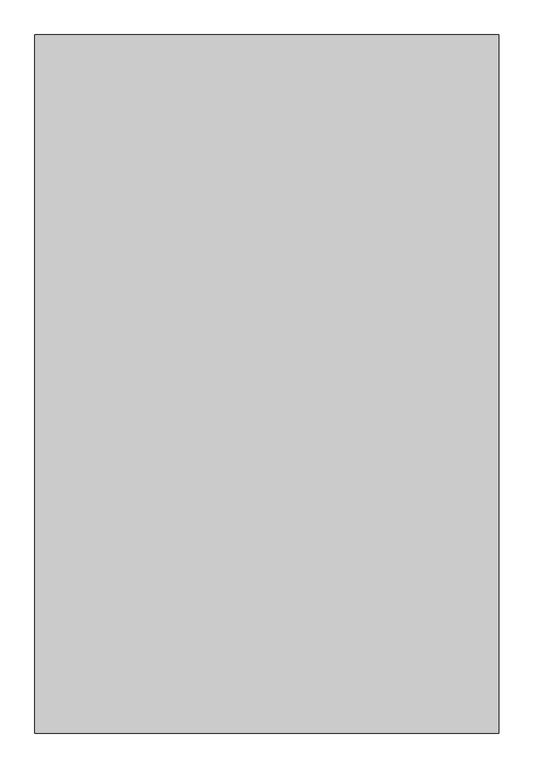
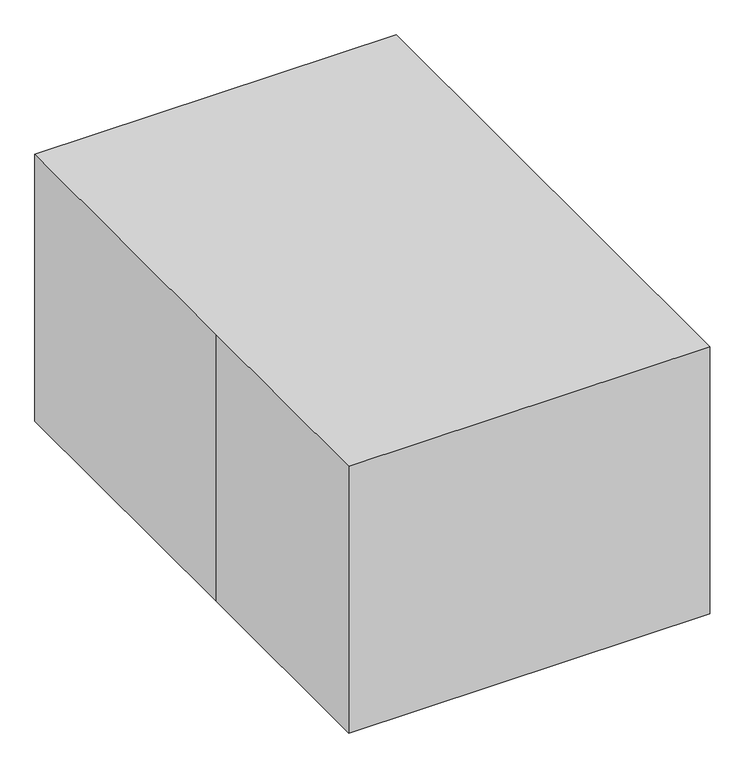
"""IFC4 building model written with IfcOpenShell, lengths in millimetres: proxy geometry, BIMHealth-MRI-LOD2A-v1 : BIMHealth-MRI-LOD2A-v1."""

import ifcopenshell
import ifcopenshell.guid

model = None  # the IFC model being written
_history = None  # IfcOwnerHistory: only IFC2X3 demands one
_inside = {}  # id of a spatial element -> (the spatial element, [elements in it])
_under = {}  # id of a project, library or spatial element -> (it, [spatial elements below it])
_declared = {}  # id of a project -> (the project, [libraries it declares])
_typed = {}  # id of a type object -> (the type object, [elements of that type])
_made_of = {}  # id of a material, layer set ... -> (it, [elements and type objects made of it])


def new_model(schema):
    """Start an empty IFC model of exactly this schema.

    Asked for "IFC4X3", IfcOpenShell would pick the latest addendum, in which some entities
    have other attributes; the version numbers below select the first issue.
    IFC2X3 requires an IfcOwnerHistory on every rooted entity: one is made here for all.
    """
    global model, _history
    if schema == "IFC4X3":
        model = ifcopenshell.file(schema_version=(4, 3, 0, 0))
    else:
        model = ifcopenshell.file(schema=schema)
    _inside.clear()
    _under.clear()
    _declared.clear()
    _typed.clear()
    _made_of.clear()
    _history = None
    if model.schema == "IFC2X3":
        org = make("IfcOrganization", Name="unknown")
        user = make(
            "IfcPersonAndOrganization",
            ThePerson=make("IfcPerson", FamilyName="unknown"),
            TheOrganization=org,
        )
        app = make(
            "IfcApplication",
            ApplicationDeveloper=org,
            Version="unknown",
            ApplicationFullName="unknown",
            ApplicationIdentifier="unknown",
        )
        _history = make(
            "IfcOwnerHistory",
            OwningUser=user,
            OwningApplication=app,
            ChangeAction="ADDED",
            CreationDate=0,
        )
    return model


def make(cls, **values):
    """One entity of the class cls with the attributes given. An attribute that is None is left unset."""
    return model.create_entity(
        cls, **{name: value for name, value in values.items() if value is not None}
    )


def rooted(cls, **values):
    """An entity with a GlobalId (a new one), such as an element, a storey or a relation."""
    return make(cls, GlobalId=ifcopenshell.guid.new(), OwnerHistory=_history, **values)


def si_unit(unit_type, name, prefix=None):
    """IfcSIUnit, for example si_unit("LENGTHUNIT", "METRE", prefix="MILLI")."""
    return make("IfcSIUnit", UnitType=unit_type, Prefix=prefix, Name=name)


def assignment(units):
    """IfcUnitAssignment: the units of a project."""
    return None if units is None else make("IfcUnitAssignment", Units=units)


def point(xyz):
    """IfcCartesianPoint."""
    return None if xyz is None else make("IfcCartesianPoint", Coordinates=xyz)


def direction(xyz):
    """IfcDirection."""
    return None if xyz is None else make("IfcDirection", DirectionRatios=xyz)


def frame(location, z_axis=None, x_axis=None):
    """IfcAxis2Placement3D, a coordinate frame: its origin and axes. An axis left out is left unset."""
    return make(
        "IfcAxis2Placement3D",
        Location=point(location),
        Axis=direction(z_axis),
        RefDirection=direction(x_axis),
    )


def frame_2d(location, x_axis=None):
    """IfcAxis2Placement2D, a coordinate frame in the plane: its origin and x axis."""
    return make(
        "IfcAxis2Placement2D", Location=point(location), RefDirection=direction(x_axis)
    )


def origin():
    """The frame at (0, 0, 0) with its axes left unset."""
    return frame((0.0, 0.0, 0.0))


def origin_with_axes():
    """The frame at (0, 0, 0) with the z axis (0, 0, 1) and the x axis (1, 0, 0) written out."""
    return frame((0.0, 0.0, 0.0), z_axis=(0.0, 0.0, 1.0), x_axis=(1.0, 0.0, 0.0))


def place(relative_to, where):
    """IfcLocalPlacement: puts the frame where relative to a parent placement (None: the world)."""
    return make(
        "IfcLocalPlacement", PlacementRelTo=relative_to, RelativePlacement=where
    )


def context(
    kind, dimensions, precision=None, world=None, true_north=None, identifier=None
):
    """IfcGeometricRepresentationContext, for example the 3D "Model" context."""
    return make(
        "IfcGeometricRepresentationContext",
        ContextIdentifier=identifier,
        ContextType=kind,
        CoordinateSpaceDimension=dimensions,
        Precision=precision,
        WorldCoordinateSystem=world,
        TrueNorth=true_north,
    )


def project(units=None, contexts=None):
    """IfcProject with its units and contexts."""
    return rooted(
        "IfcProject",
        Name="project",
        RepresentationContexts=contexts,
        UnitsInContext=assignment(units),
    )


def spatial(cls, under=None, at=None, **own):
    """A site, building, storey or space (cls), placed at a placement, below another one or the project."""
    s = rooted(cls, ObjectPlacement=at, **own)
    if under is not None:
        _under.setdefault(under.id(), (under, []))[1].append(s)
    return s


def polyline(points):
    """IfcPolyline through the points."""
    return make("IfcPolyline", Points=[point(p) for p in points])


def circle_curve(where, radius):
    """IfcCircle in the frame where."""
    return make("IfcCircle", Position=where, Radius=radius)


def ellipse_curve(where, semi_axis1, semi_axis2):
    """IfcEllipse in the frame where."""
    return make(
        "IfcEllipse", Position=where, SemiAxis1=semi_axis1, SemiAxis2=semi_axis2
    )


def trimmed(basis, trim1, trim2, sense, master):
    """IfcTrimmedCurve: the piece of a basis curve between two trims."""
    return make(
        "IfcTrimmedCurve",
        BasisCurve=basis,
        Trim1=trim1,
        Trim2=trim2,
        SenseAgreement=sense,
        MasterRepresentation=master,
    )


def segment(curve, same_sense, transition):
    """IfcCompositeCurveSegment."""
    return make(
        "IfcCompositeCurveSegment",
        Transition=transition,
        SameSense=same_sense,
        ParentCurve=curve,
    )


def composite_curve(segments, self_intersect=None):
    """IfcCompositeCurve: segments joined end to end."""
    return make("IfcCompositeCurve", Segments=segments, SelfIntersect=self_intersect)


def outline(outer, holes=None, kind="AREA"):
    """IfcArbitraryClosedProfileDef: a profile drawn as a closed curve; with holes, ...WithVoids."""
    if holes is None:
        return make("IfcArbitraryClosedProfileDef", ProfileType=kind, OuterCurve=outer)
    return make(
        "IfcArbitraryProfileDefWithVoids",
        ProfileType=kind,
        OuterCurve=outer,
        InnerCurves=holes,
    )


def extrude(swept, where, along, depth):
    """IfcExtrudedAreaSolid: the profile swept, set in the frame where, extruded along a direction by depth."""
    return make(
        "IfcExtrudedAreaSolid",
        SweptArea=swept,
        Position=where,
        ExtrudedDirection=direction(along),
        Depth=depth,
    )


def shape(context_of_items, identifier, shape_type, items):
    """IfcShapeRepresentation: the items that make up one representation, for example the "Body"."""
    return make(
        "IfcShapeRepresentation",
        ContextOfItems=context_of_items,
        RepresentationIdentifier=identifier,
        RepresentationType=shape_type,
        Items=items,
    )


def source(mapping_origin, context_of_items, identifier, shape_type, items):
    """IfcRepresentationMap: a shape defined once, which mapped items show again and again."""
    return make(
        "IfcRepresentationMap",
        MappingOrigin=mapping_origin,
        MappedRepresentation=shape(context_of_items, identifier, shape_type, items),
    )


def transform(
    local_origin,
    x_axis=None,
    y_axis=None,
    z_axis=None,
    scale=None,
    scale2=None,
    scale3=None,
    uniform=True,
):
    """IfcCartesianTransformationOperator3D, or its non-uniform kind. x_axis, y_axis, z_axis: its Axis1, 2, 3."""
    if uniform:
        return make(
            "IfcCartesianTransformationOperator3D",
            Axis1=direction(x_axis),
            Axis2=direction(y_axis),
            LocalOrigin=point(local_origin),
            Scale=scale,
            Axis3=direction(z_axis),
        )
    return make(
        "IfcCartesianTransformationOperator3DnonUniform",
        Axis1=direction(x_axis),
        Axis2=direction(y_axis),
        LocalOrigin=point(local_origin),
        Scale=scale,
        Axis3=direction(z_axis),
        Scale2=scale2,
        Scale3=scale3,
    )


def mapped(mapping_source, mapping_target):
    """IfcMappedItem: shows the shape of a source again, moved by a transform."""
    return make(
        "IfcMappedItem", MappingSource=mapping_source, MappingTarget=mapping_target
    )


def made_of(thing, what):
    """Note that an element or type object is made of a material, layer set ...; save() writes the relation."""
    if what is not None:
        _made_of.setdefault(what.id(), (what, []))[1].append(thing)
    return thing


def element(
    cls,
    number,
    at=None,
    inside=None,
    cuts=None,
    type_object=None,
    material=None,
    context=None,
    identifier="Body",
    shape_type=None,
    held_by="IfcProductDefinitionShape",
    body=None,
    shapes=None,
    **own,
):
    """One element of the class cls, such as IfcWall. Its Tag is "e" and its number.

    at: its placement. inside: the storey or other place that contains it. cuts: it is an
    opening in that element (IfcRelVoidsElement). A single representation is given by context,
    identifier, shape_type and body (its items); several are given by shapes. held_by: the class
    of the entity that holds the representations. save() writes the other relations.
    """
    e = rooted(cls, Tag="e%d" % number, ObjectPlacement=at, **own)
    if body is not None:
        shapes = [shape(context, identifier, shape_type, body)]
    if shapes is not None:
        e.Representation = make(held_by, Representations=shapes)
    if inside is not None:
        _inside.setdefault(inside.id(), (inside, []))[1].append(e)
    if cuts is not None:
        rooted(
            "IfcRelVoidsElement", RelatingBuildingElement=cuts, RelatedOpeningElement=e
        )
    if type_object is not None:
        _typed.setdefault(type_object.id(), (type_object, []))[1].append(e)
    return made_of(e, material)


def aggregate(whole, parts):
    """IfcRelAggregates: a whole, such as a stair, and the parts it consists of."""
    return rooted("IfcRelAggregates", RelatingObject=whole, RelatedObjects=parts)


def save(model, path):
    """Write the relations noted so far, then the file.

    IfcRelAggregates (storeys below a building ...), IfcRelContainedInSpatialStructure (elements
    in a storey), IfcRelDefinesByType, IfcRelAssociatesMaterial and IfcRelDeclares: one each for
    every whole, place, type object, material and project.
    """
    for whole, parts in _under.values():
        aggregate(whole, parts)
    for where, things in _inside.values():
        rooted(
            "IfcRelContainedInSpatialStructure",
            RelatedElements=things,
            RelatingStructure=where,
        )
    for kind, things in _typed.values():
        rooted("IfcRelDefinesByType", RelatedObjects=things, RelatingType=kind)
    for what, things in _made_of.values():
        rooted("IfcRelAssociatesMaterial", RelatedObjects=things, RelatingMaterial=what)
    for by, libraries in _declared.values():
        rooted("IfcRelDeclares", RelatingContext=by, RelatedDefinitions=libraries)
    model.write(path)


def plane_surface(at):
    """IfcPlane: the flat surface through the origin of the frame at, square to its z axis."""
    return make("IfcPlane", Position=at)


def cylinder_surface(at, radius):
    """IfcCylindricalSurface: all points at the distance radius from the z axis of the frame at."""
    return make("IfcCylindricalSurface", Position=at, Radius=radius)


def revolved_surface(curve, axis_point, axis_direction):
    """IfcSurfaceOfRevolution: the curve turned about the line through axis_point along axis_direction."""
    return make(
        "IfcSurfaceOfRevolution",
        SweptCurve=make("IfcArbitraryOpenProfileDef", ProfileType="CURVE", Curve=curve),
        AxisPosition=make("IfcAxis1Placement", Location=point(axis_point), Axis=direction(axis_direction)),
    )


def advanced_brep(points, edges, surfaces, faces):
    """IfcAdvancedBrep: a solid bounded by faces that lie on surfaces and meet in shared edges.

    An edge is (start, end): straight between two places in points (the first is 0);
    or (start, end, curve); or (start, end, curve, False) where it runs against its curve.
    A face is (place in surfaces, loops), or (place, loops, False) where it looks against
    its surface's normal. A loop lists edges by number (the first is 1), with a minus sign
    where the edge is run from its end to its start. The first loop is the outer one.
    """
    corners = [point(p) for p in points]
    vertices = [make("IfcVertexPoint", VertexGeometry=c) for c in corners]
    made = []
    for start, end, *more in edges:
        made.append(
            make(
                "IfcEdgeCurve",
                EdgeStart=vertices[start],
                EdgeEnd=vertices[end],
                EdgeGeometry=more[0] if more else make("IfcPolyline", Points=[corners[start], corners[end]]),
                SameSense=more[1] if len(more) > 1 else True,
            )
        )
    hull = []
    for where, loops, *sense in faces:
        bounds = []
        for j, loop in enumerate(loops):
            ring = [make("IfcOrientedEdge", EdgeElement=made[abs(k) - 1], Orientation=k > 0) for k in loop]
            bounds.append(
                make(
                    "IfcFaceOuterBound" if j == 0 else "IfcFaceBound",
                    Bound=make("IfcEdgeLoop", EdgeList=ring),
                    Orientation=True,
                )
            )
        hull.append(make("IfcAdvancedFace", Bounds=bounds, FaceSurface=surfaces[where], SameSense=sense[0] if sense else True))
    return make("IfcAdvancedBrep", Outer=make("IfcClosedShell", CfsFaces=hull))


def generic_models_8b75f9c6(model_context):
    return source(origin(), model_context, "Body", "SolidModel", [
        extrude(outline(polyline([(817.5894364, -1006.9230769), (817.5894364, -988.28125), (818.4367922, -980.390625), (820.9367922, -975.0360577), (825.6483306, -971.4483173), (832.2649172, -970.0), (839.9211672, -972.1213942), (844.5125133, -978.1850962), (848.8694845, -973.1911058), (854.6206864, -971.5384615), (860.9187633, -973.5036058), (865.3718883, -978.9362981), (866.8202056, -988.1370192), (866.8202056, -1006.9230769), (817.5894364, -1006.9230769)]), holes=[polyline([(846.8202056, -1000.7692308), (860.6663595, -1000.7692308), (860.6663595, -990.3846154), (860.0233306, -982.4759615), (857.6495326, -978.9302885), (853.6351095, -977.6923077), (849.626696, -979.0204327), (847.3490518, -982.96875), (846.8202056, -989.53125), (846.8202056, -1000.7692308)]), polyline([(823.7432826, -1000.7692308), (840.6663595, -1000.7692308), (840.6663595, -988.75), (839.8430422, -981.1478365), (836.9884749, -977.3317308), (832.204821, -976.1538462), (828.0581864, -977.1574519), (825.3238114, -979.7175481), (823.9836672, -983.5817308), (823.7432826, -988.1490385), (823.7432826, -1000.7692308)])]), frame((0.0, -1540.0, 0.0), z_axis=(0.0, 1.0, 0.0), x_axis=(0.0, 0.0, 1.0)), (0.0, 0.0, 1.0), 25.0),
        extrude(outline(polyline([(817.5894364, -961.5384615), (817.5894364, -955.3846154), (860.6663595, -955.3846154), (817.5894364, -943.0048077), (817.5894364, -934.6754808), (860.6663595, -922.3076923), (817.5894364, -922.3076923), (817.5894364, -916.1538462), (866.8202056, -916.1538462), (866.8202056, -926.7427885), (832.721648, -936.6466346), (824.8730903, -938.8461538), (832.1206864, -940.8894231), (866.8202056, -950.9855769), (866.8202056, -961.5384615), (817.5894364, -961.5384615)])), frame((0.0, -1540.0, 0.0), z_axis=(0.0, 1.0, 0.0), x_axis=(0.0, 0.0, 1.0)), (0.0, 0.0, 1.0), 25.0),
        extrude(outline(polyline([(-898.4615385, -1540.0), (-904.6153846, -1540.0), (-904.6153846, -1515.0), (-898.4615385, -1515.0), (-898.4615385, -1540.0)])), frame((0.0, 0.0, 817.5894364), z_axis=(0.0, 0.0, 1.0), x_axis=(1.0, 0.0, 0.0)), (0.0, 0.0, 1.0), 49.2307692),
        extrude(outline(polyline([(817.5894364, -866.9230769), (817.5894364, -860.7692308), (840.6663595, -860.7692308), (840.6663595, -834.6153846), (817.5894364, -834.6153846), (817.5894364, -828.4615385), (866.8202056, -828.4615385), (866.8202056, -834.6153846), (846.8202056, -834.6153846), (846.8202056, -860.7692308), (866.8202056, -860.7692308), (866.8202056, -866.9230769), (817.5894364, -866.9230769)])), frame((0.0, -1540.0, 0.0), z_axis=(0.0, 1.0, 0.0), x_axis=(0.0, 0.0, 1.0)), (0.0, 0.0, 1.0), 25.0),
        extrude(outline(polyline([(828.3586672, -793.1490385), (824.2601095, -797.1153846), (822.9740518, -803.1490385), (825.7504941, -811.0757212), (833.7432826, -814.6153846), (833.7432826, -786.9591346), (835.4019364, -786.9230769), (849.5004941, -791.5925481), (854.5125133, -803.6177885), (849.4884749, -815.9975962), (835.3658787, -820.7692308), (821.6940037, -816.0456731), (816.8202056, -803.2692308), (819.6447249, -792.7584135), (827.5894364, -787.1153846), (828.3586672, -793.1490385)]), holes=[polyline([(839.8971287, -814.6153846), (846.0569845, -811.2199519), (848.3586672, -803.6418269), (845.4740518, -795.5408654), (839.8971287, -793.0769231), (839.8971287, -814.6153846)])]), frame((0.0, -1540.0, 0.0), z_axis=(0.0, 1.0, 0.0), x_axis=(0.0, 0.0, 1.0)), (0.0, 0.0, 1.0), 25.0),
        extrude(outline(polyline([(822.204821, -757.6923077), (817.5894364, -756.1538462), (817.5894364, -750.0), (822.7637153, -751.2259615), (833.454821, -751.5384615), (841.111071, -751.5384615), (846.4956864, -751.8389423), (850.6723691, -753.7259615), (853.4187633, -757.9387019), (854.5125133, -765.3966346), (853.2745326, -773.515625), (849.752898, -778.8762019), (843.7432826, -781.5384615), (842.9740518, -775.3846154), (847.174773, -772.4158654), (848.3586672, -766.1899038), (846.579821, -759.3870192), (840.6663595, -757.7283654), (838.5509749, -768.4014423), (837.6254941, -773.7259615), (835.6062633, -778.0348558), (832.0726095, -781.1298077), (827.204821, -782.3076923), (819.7408787, -779.1887019), (816.8202056, -770.2524038), (818.034148, -763.6598558), (822.204821, -757.6923077)]), holes=[polyline([(834.5125133, -757.6923077), (832.7697249, -757.7283654), (828.0101095, -758.7019231), (824.4464076, -762.7163462), (822.9740518, -768.9423077), (824.3081864, -774.3209135), (827.6375133, -776.1538462), (830.0053018, -775.3125), (831.627898, -772.9146635), (832.6254941, -767.6201923), (834.5125133, -757.6923077)])]), frame((0.0, -1540.0, 0.0), z_axis=(0.0, 1.0, 0.0), x_axis=(0.0, 0.0, 1.0)), (0.0, 0.0, 1.0), 25.0),
        extrude(outline(polyline([(-736.9230769, -1540.0), (-743.0769231, -1540.0), (-743.0769231, -1515.0), (-736.9230769, -1515.0), (-736.9230769, -1540.0)])), frame((0.0, 0.0, 817.5894364), z_axis=(0.0, 0.0, 1.0), x_axis=(1.0, 0.0, 0.0)), (0.0, 0.0, 1.0), 49.2307692),
        extrude(outline(polyline([(822.721648, -714.6153846), (822.9740518, -717.2956731), (824.5125133, -720.4447115), (827.6855903, -720.7692308), (847.5894364, -720.7692308), (847.5894364, -714.6153846), (853.7432826, -714.6153846), (853.7432826, -720.7692308), (866.1471287, -720.7692308), (862.5293403, -726.9230769), (853.7432826, -726.9230769), (853.7432826, -731.5384615), (847.5894364, -731.5384615), (847.5894364, -726.9230769), (827.5053018, -726.9230769), (820.5221287, -726.1778846), (817.8418403, -723.6057692), (816.8202056, -718.4495192), (817.409148, -713.8461538), (822.721648, -714.6153846)])), frame((0.0, -1540.0, 0.0), z_axis=(0.0, 1.0, 0.0), x_axis=(0.0, 0.0, 1.0)), (0.0, 0.0, 1.0), 25.0),
        extrude(outline(polyline([(817.5894364, -708.4615385), (817.5894364, -702.3076923), (836.7961672, -702.3076923), (843.2745326, -701.3040865), (846.9884749, -697.9387019), (848.3586672, -692.8966346), (846.3274172, -687.34375), (839.8370326, -685.3846154), (817.5894364, -685.3846154), (817.5894364, -679.2307692), (840.4740518, -679.2307692), (848.5629941, -680.4927885), (852.9319845, -684.6875), (854.5125133, -691.5985577), (848.7192441, -702.3076923), (866.8202056, -702.3076923), (866.8202056, -708.4615385), (817.5894364, -708.4615385)])), frame((0.0, -1540.0, 0.0), z_axis=(0.0, 1.0, 0.0), x_axis=(0.0, 0.0, 1.0)), (0.0, 0.0, 1.0), 25.0),
        extrude(outline(polyline([(1953.2196027, -113.8461538), (1953.2196027, -101.5384615), (2039.3734488, -101.5384615), (1953.2196027, -76.7788462), (1953.2196027, -60.1201923), (2039.3734488, -35.3846154), (1953.2196027, -35.3846154), (1953.2196027, -23.0769231), (2051.6811411, -23.0769231), (2051.6811411, -44.2548077), (1983.4840257, -64.0625), (1967.7869103, -68.4615385), (1982.2821027, -72.5480769), (2051.6811411, -92.7403846), (2051.6811411, -113.8461538), (1953.2196027, -113.8461538)])), frame((0.0, -1135.0, 0.0), z_axis=(0.0, 1.0, 0.0), x_axis=(0.0, 0.0, 1.0)), (0.0, 0.0, 1.0), 25.0),
        extrude(outline(polyline([(1953.2196027, -1.5384615), (1953.2196027, 10.7692308), (1996.2965257, 10.7692308), (1996.2965257, 25.625), (1995.8638334, 32.7644231), (1993.5200834, 38.6177885), (1987.1378719, 45.1201923), (1973.6282565, 54.375), (1953.2196027, 67.1875), (1953.2196027, 81.4903846), (1979.902295, 65.0721154), (1992.5705642, 55.0961538), (1997.8349873, 48.1009615), (2001.0982084, 60.2253606), (2006.9936411, 68.7139423), (2015.0345065, 73.7169471), (2024.7340257, 75.3846154), (2039.6258527, 71.3581731), (2049.0248911, 60.5889423), (2051.6811411, 40.8894231), (2051.6811411, -1.5384615), (1953.2196027, -1.5384615)]), holes=[polyline([(2008.604218, 10.7692308), (2039.3734488, 10.7692308), (2039.3734488, 41.4182692), (2035.1186411, 57.8725962), (2024.277295, 63.0769231), (2015.9239296, 60.3485577), (2010.3470065, 52.3677885), (2008.604218, 38.3173077), (2008.604218, 10.7692308)])]), frame((0.0, -1135.0, 0.0), z_axis=(0.0, 1.0, 0.0), x_axis=(0.0, 0.0, 1.0)), (0.0, 0.0, 1.0), 25.0),
        extrude(outline(polyline([(110.7692308, -1135.0), (98.4615385, -1135.0), (98.4615385, -1110.0), (110.7692308, -1110.0), (110.7692308, -1135.0)])), frame((0.0, 0.0, 1953.2196027), z_axis=(0.0, 0.0, 1.0), x_axis=(1.0, 0.0, 0.0)), (0.0, 0.0, 1.0), 98.4615385),
        extrude(outline(composite_curve([segment(polyline([(831.8455339, 683.5323838), (931.8455339, 683.5323838), (1057.0831069, 373.0851318)]), True, "CONTINUOUS"), segment(trimmed(circle_curve(frame_2d((1209.4316858, 1.2402151)), 401.8441632), [point((1057.0831069, 373.0851318))], [point((1057.0831069, -370.6047015))], True, "CARTESIAN"), True, "CONTINUOUS"), segment(polyline([(1057.0831069, -370.6047015), (930.0, -683.5323838), (831.8455339, -683.5323838)]), True, "CONTINUOUS"), segment(trimmed(circle_curve(frame_2d((1207.5894364, 0.0)), 780.0), [point((831.8455339, -683.5323838))], [point((831.8455339, 683.5323838))], False, "CARTESIAN"), True, "CONTINUOUS")], self_intersect=False)), frame((0.0, -1135.0, 0.0), z_axis=(0.0, 1.0, 0.0), x_axis=(0.0, 0.0, 1.0)), (0.0, 0.0, 1.0), 520.0),
        extrude(outline(polyline([(711.6025404, -400.0), (625.0, -350.0), (625.0, -300.0), (580.9908232, -300.0), (580.9908232, -250.0), (530.9908232, -250.0), (530.9908232, -150.0), (580.9908232, -150.0), (580.9908232, 150.0), (530.9908232, 150.0), (530.9908232, 250.0), (580.9908232, 250.0), (580.9908232, 300.0), (630.9908232, 300.0), (630.9908232, 350.0), (711.6025404, 400.0), (711.6025404, 300.0), (697.4604048, 285.8578644), (697.4604048, -285.8578644), (711.6025404, -300.0), (711.6025404, -400.0)])), frame((0.0, -3265.0, 0.0), z_axis=(0.0, 1.0, 0.0), x_axis=(0.0, 0.0, 1.0)), (0.0, 0.0, 1.0), 2130.0),
        extrude(outline(polyline([(415.0, 350.0), (505.9908232, 350.0), (505.9908232, 400.0), (630.9908232, 400.0), (630.9908232, 300.0), (580.9908232, 300.0), (580.9908232, 250.0), (530.9908232, 250.0), (530.9908232, 150.0), (580.9908232, 150.0), (580.9908232, -150.0), (530.9908232, -150.0), (530.9908232, -250.0), (580.9908232, -250.0), (580.9908232, -300.0), (625.0, -300.0), (625.0, -400.0), (505.9908232, -400.0), (505.9908232, -350.0), (415.0, -350.0), (415.0, 0.0), (415.0, 350.0)])), frame((0.0, -2665.0, 0.0), z_axis=(0.0, 1.0, 0.0), x_axis=(0.0, 0.0, 1.0)), (0.0, 0.0, 1.0), 1250.0),
        extrude(outline(polyline([(400.0, -1065.0), (400.0, -1415.0), (-620.0, -1415.0), (-620.0, -1065.0), (400.0, -1065.0)])), frame((0.0, 0.0, 375.0), z_axis=(0.0, 0.0, 1.0), x_axis=(1.0, 0.0, 0.0)), (0.0, 0.0, 1.0), 250.0),
        extrude(outline(composite_curve([segment(polyline([(-1220.027776, -1515.0), (-1220.027776, -1065.0), (-1070.0, -1065.0)]), True, "CONTINUOUS"), segment(trimmed(circle_curve(frame_2d((-746.1562394, -464.5758248)), 682.1905683), [point((-1070.0, -1065.0))], [point((-620.0, -1135.0))], True, "CARTESIAN"), True, "CONTINUOUS"), segment(polyline([(-620.0, -1135.0), (-620.0, -1515.0), (-1220.027776, -1515.0)]), True, "CONTINUOUS")], self_intersect=False)), frame((0.0, 0.0, 935.0), z_axis=(0.0, 0.0, 1.0), x_axis=(1.0, 0.0, 0.0)), (0.0, 0.0, 1.0), 25.0),
        extrude(outline(composite_curve([segment(polyline([(2760.0, -1070.0), (1860.0, -1070.0)]), True, "CONTINUOUS"), segment(trimmed(circle_curve(frame_2d((364.4024253, 30.3542375)), 1856.7691169), [point((1860.0, -1070.0))], [point((2210.0, -173.0201606))], True, "CARTESIAN"), True, "CONTINUOUS"), segment(trimmed(circle_curve(frame_2d((2172.4729829, -1993.9388705)), 1821.3053629), [point((2210.0, -173.0201606))], [point((2760.0, -270.0))], False, "CARTESIAN"), True, "CONTINUOUS"), segment(polyline([(2760.0, -270.0), (2760.0, -1070.0)]), True, "CONTINUOUS")], self_intersect=False)), frame((0.0, -804.7531449, 0.0), z_axis=(0.0, 1.0, 0.0), x_axis=(0.0, 0.0, 1.0)), (0.0, 0.0, 1.0), 1757.427349),
        extrude(outline(composite_curve([segment(trimmed(circle_curve(frame_2d((421.5047771, 0.0)), 1792.810226), [point((1860.0, -1070.0))], [point((2113.0949325, -593.8781462))], True, "CARTESIAN"), True, "CONTINUOUS"), segment(trimmed(circle_curve(frame_2d((1208.0316483, 0.0)), 1082.5113398), [point((2113.0949325, -593.8781462))], [point((2113.0949325, 593.8781462))], True, "CARTESIAN"), True, "CONTINUOUS"), segment(trimmed(circle_curve(frame_2d((421.5047771, 0.0)), 1792.810226), [point((2113.0949325, 593.8781462))], [point((1860.0, 1070.0))], True, "CARTESIAN"), True, "CONTINUOUS"), segment(trimmed(circle_curve(frame_2d((1438.5738499, 0.0)), 1150.0), [point((1860.0, 1070.0))], [point((1860.0, -1070.0))], False, "CARTESIAN"), True, "CONTINUOUS")], self_intersect=False)), frame((0.0, -856.8008398, 0.0), z_axis=(0.0, 1.0, 0.0), x_axis=(0.0, 0.0, 1.0)), (0.0, 0.0, 1.0), 1925.0),
        extrude(outline(composite_curve([segment(trimmed(circle_curve(frame_2d((421.5047771, 0.0)), 1792.810226), [point((2113.0949325, -593.8781462))], [point((2113.0949325, 593.8781462))], True, "CARTESIAN"), True, "CONTINUOUS"), segment(trimmed(circle_curve(frame_2d((1208.0316483, 0.0)), 1082.5113398), [point((2113.0949325, 593.8781462))], [point((2113.0949325, -593.8781462))], False, "CARTESIAN"), True, "CONTINUOUS")], self_intersect=False)), frame((0.0, -1065.0, 0.0), z_axis=(0.0, 1.0, 0.0), x_axis=(0.0, 0.0, 1.0)), (0.0, 0.0, 1.0), 2130.0),
        advanced_brep(
        [(-532.5113398, -1065.0, 1208.0316483), (532.5113398, -1065.0, 1208.0316483), (1082.5113398, -1065.0, 1208.0316483), (-1082.5113398, -1065.0, 1208.0316483)],
        [
            (0, 1, circle_curve(frame((0.0, -1065.0, 1208.0316483), z_axis=(0.0, 1.0, 0.0), x_axis=(1.0, 0.0, 0.0)), 532.5113398)),
            (1, 2, circle_curve(frame((807.5113398, -476.0390505, 1208.0316483), z_axis=(0.0, 0.0, 1.0), x_axis=(-1.0, 0.0, 0.0)), 650.0)),
            (2, 3, circle_curve(frame((0.0, -1065.0, 1208.0316483), z_axis=(0.0, -1.0, 0.0), x_axis=(1.0, 0.0, 0.0)), 1082.5113398)),
            (3, 0, circle_curve(frame((-807.5113398, -476.0390505, 1208.0316483), z_axis=(0.0, 0.0, 1.0), x_axis=(1.0, 0.0, 0.0)), 650.0)),
            (2, 3, circle_curve(frame((0.0, -1065.0, 1208.0316483), z_axis=(0.0, 1.0, 0.0), x_axis=(-1.0, 0.0, 0.0)), 1082.5113398)),
            (0, 1, circle_curve(frame((0.0, -1065.0, 1208.0316483), z_axis=(0.0, -1.0, 0.0), x_axis=(-1.0, 0.0, 0.0)), 532.5113398)),
        ],
        [
            revolved_surface(trimmed(ellipse_curve(frame((807.5113398, -476.0390505, 1208.0316483), z_axis=(0.0, 0.0, -1.0), x_axis=(-1.0, 0.0, 0.0)), 650.0, 650.0), [point((1082.5113398, -1065.0, 1208.0316483))], [point((532.5113398, -1065.0, 1208.0316483))], True, "CARTESIAN"), (0.0, -1065.0, 1208.0316483), (0.0, -1.0, 0.0)),
            plane_surface(frame((0.0, -1065.0, 1208.0316483), z_axis=(0.0, 1.0, 0.0), x_axis=(-1.0, 0.0, 0.0))),
            revolved_surface(trimmed(ellipse_curve(frame((-807.5113398, -476.0390505, 1208.0316483), z_axis=(0.0, 0.0, 1.0), x_axis=(1.0, 0.0, 0.0)), 650.0, 650.0), [point((-1082.5113398, -1065.0, 1208.0316483))], [point((-532.5113398, -1065.0, 1208.0316483))], True, "CARTESIAN"), (0.0, -1065.0, 1208.0316483), (0.0, -1.0, 0.0)),
        ],
        [
            (0, [[1, 2, 3, 4]]),
            (1, [[5, -3], [6, -1]]),
            (2, [[-6, -4, -5, -2]]),
        ],
    ),
        extrude(outline(composite_curve([segment(polyline([(0.0, -620.0), (930.0, -620.0), (930.0, -1220.027776)]), True, "CONTINUOUS"), segment(trimmed(circle_curve(frame_2d((930.0, 1737.4523567)), 2957.4801327), [point((930.0, -1220.027776))], [point((0.0, -1070.0))], False, "CARTESIAN"), True, "CONTINUOUS"), segment(polyline([(0.0, -1070.0), (0.0, -620.0)]), True, "CONTINUOUS")], self_intersect=False)), frame((0.0, -1515.0, 0.0), z_axis=(0.0, 1.0, 0.0), x_axis=(0.0, 0.0, 1.0)), (0.0, 0.0, 1.0), 450.0),
        advanced_brep(
        [(1070.0, -1065.0, 0.0), (1070.0, -1065.0, 1860.0), (-1070.0, -1065.0, 1860.0), (-1070.0, -1065.0, 0.0), (780.0, -1065.0, 1207.5894364), (-780.0, -1065.0, 1207.5894364), (1070.0, 1065.0, 0.0), (-1070.0, 1065.0, 0.0), (-1070.0, 1065.0, 1860.0), (1070.0, 1065.0, 1860.0), (400.0, -615.0, 1207.5894364), (-400.0, -615.0, 1207.5894364), (400.0, 785.9468407, 1207.5894364), (-400.0, 785.9468407, 1207.5894364)],
        [
            (0, 1, circle_curve(frame((-1704.9224394, -1065.0, 930.0), z_axis=(0.0, -1.0, 0.0), x_axis=(1.0, 0.0, 0.0)), 2926.6182779)),
            (1, 2, circle_curve(frame((0.0, -1065.0, 421.5047771), z_axis=(0.0, -1.0, 0.0), x_axis=(1.0, 0.0, 0.0)), 1792.810226)),
            (2, 3, circle_curve(frame((1737.4523567, -1065.0, 930.0), z_axis=(0.0, -1.0, 0.0), x_axis=(1.0, 0.0, 0.0)), 2957.4801327)),
            (3, 0),
            (4, 5, circle_curve(frame((0.0, -1065.0, 1207.5894364), z_axis=(0.0, 1.0, 0.0), x_axis=(1.0, 0.0, 0.0)), 780.0)),
            (5, 4, circle_curve(frame((0.0, -1065.0, 1207.5894364), z_axis=(0.0, 1.0, 0.0), x_axis=(-1.0, 0.0, 0.0)), 780.0)),
            (6, 7),
            (7, 8, circle_curve(frame((1737.4523567, 1065.0, 930.0), z_axis=(0.0, 1.0, 0.0), x_axis=(1.0, 0.0, 0.0)), 2957.4801327)),
            (8, 9, circle_curve(frame((0.0, 1065.0, 421.5047771), z_axis=(0.0, 1.0, 0.0), x_axis=(1.0, 0.0, 0.0)), 1792.810226)),
            (9, 6, circle_curve(frame((-1704.9224394, 1065.0, 930.0), z_axis=(0.0, 1.0, 0.0), x_axis=(1.0, 0.0, 0.0)), 2926.6182779)),
            (0, 6),
            (9, 1),
            (8, 2),
            (7, 3),
            (4, 10),
            (10, 11, circle_curve(frame((0.0, -615.0, 1207.5894364), z_axis=(0.0, 1.0, 0.0), x_axis=(1.0, 0.0, 0.0)), 400.0)),
            (11, 5),
            (11, 10, circle_curve(frame((0.0, -615.0, 1207.5894364), z_axis=(0.0, 1.0, 0.0), x_axis=(-1.0, 0.0, 0.0)), 400.0)),
            (12, 13, circle_curve(frame((0.0, 785.9468407, 1207.5894364), z_axis=(0.0, -1.0, 0.0), x_axis=(-1.0, 0.0, 0.0)), 400.0)),
            (13, 12, circle_curve(frame((0.0, 785.9468407, 1207.5894364), z_axis=(0.0, -1.0, 0.0), x_axis=(-1.0, 0.0, 0.0)), 400.0)),
            (13, 11),
            (10, 12),
        ],
        [
            plane_surface(frame((1221.6958385, -1065.0, 930.0), z_axis=(0.0, -1.0, 0.0), x_axis=(0.0, 0.0, 1.0))),
            plane_surface(frame((1221.6958385, 1065.0, 930.0), z_axis=(0.0, 1.0, 0.0), x_axis=(0.0, 0.0, -1.0))),
            cylinder_surface(frame((-1704.9224394, 1065.0, 930.0), z_axis=(0.0, -1.0, 0.0), x_axis=(1.0, 0.0, 0.0)), 2926.6182779),
            cylinder_surface(frame((0.0, 1065.0, 421.5047771), z_axis=(0.0, -1.0, 0.0), x_axis=(1.0, 0.0, 0.0)), 1792.810226),
            cylinder_surface(frame((1737.4523567, 1065.0, 930.0), z_axis=(0.0, -1.0, 0.0), x_axis=(1.0, 0.0, 0.0)), 2957.4801327),
            plane_surface(frame((-1070.0, -1065.0, 0.0), z_axis=(0.0, 0.0, -1.0), x_axis=(0.0, 1.0, 0.0))),
            revolved_surface(polyline([(780.0, -1065.0, 1207.5894364), (399.9999999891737, -615.0, 1207.5894364)]), (0.0, -141.3157895, 1207.5894364), (0.0, -1.0, 0.0)),
            plane_surface(frame((-400.0, 785.9468407, 1207.5894364), z_axis=(0.0, -1.0, 0.0), x_axis=(0.0, 0.0, 1.0))),
            revolved_surface(polyline([(-400.0, 785.9468406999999, 1207.5894364), (-400.0, -615.0, 1207.5894364)]), (0.0, -615.0, 1207.5894364), (0.0, 1.0, 0.0)),
        ],
        [
            (0, [[1, 2, 3, 4], [5, 6]]),
            (1, [[7, 8, 9, 10]]),
            (2, [[-1, 11, -10, 12]]),
            (3, [[-2, -12, -9, 13]]),
            (4, [[-3, -13, -8, 14]]),
            (5, [[-4, -14, -7, -11]]),
            (6, [[15, 16, 17, -5]]),
            (6, [[-15, -6, -17, 18]]),
            (7, [[19, 20]]),
            (8, [[-20, 21, -16, 22]]),
            (8, [[-19, -22, -18, -21]]),
        ],
    ),
        extrude(outline(polyline([(-2020.027776, 2265.0), (1820.0, 2265.0), (1820.0, -3515.0), (-2020.027776, -3515.0), (-2020.027776, -1065.0), (-2020.027776, 2265.0)])), origin_with_axes(), (0.0, 0.0, 1.0), 3000.0),
    ])


if __name__ == "__main__":
    model = new_model("IFC4")
    model_context = context("Model", 3, world=origin())
    ifc_project = project(units=[si_unit("LENGTHUNIT", "METRE", prefix="MILLI")], contexts=[model_context])
    site = spatial("IfcSite", under=ifc_project)
    building = spatial("IfcBuilding", under=site)
    placement = place(None, origin())
    generic_models_shape = generic_models_8b75f9c6(model_context)
    element("IfcBuildingElementProxy", 1, Name="BIMHealth-MRI-LOD2A-v1 : BIMHealth-MRI-LOD2A-v1", ObjectType="BIMHealth-MRI-LOD2A-v1 : BIMHealth-MRI-LOD2A-v1", at=placement, inside=building, context=model_context, shape_type="MappedRepresentation", body=[
        mapped(generic_models_shape, transform((0.0, 0.0, 0.0), x_axis=(1.0, 0.0, 0.0), y_axis=(0.0, 1.0, 0.0), z_axis=(0.0, 0.0, 1.0))),
    ])
    save(model, "model.ifc")
